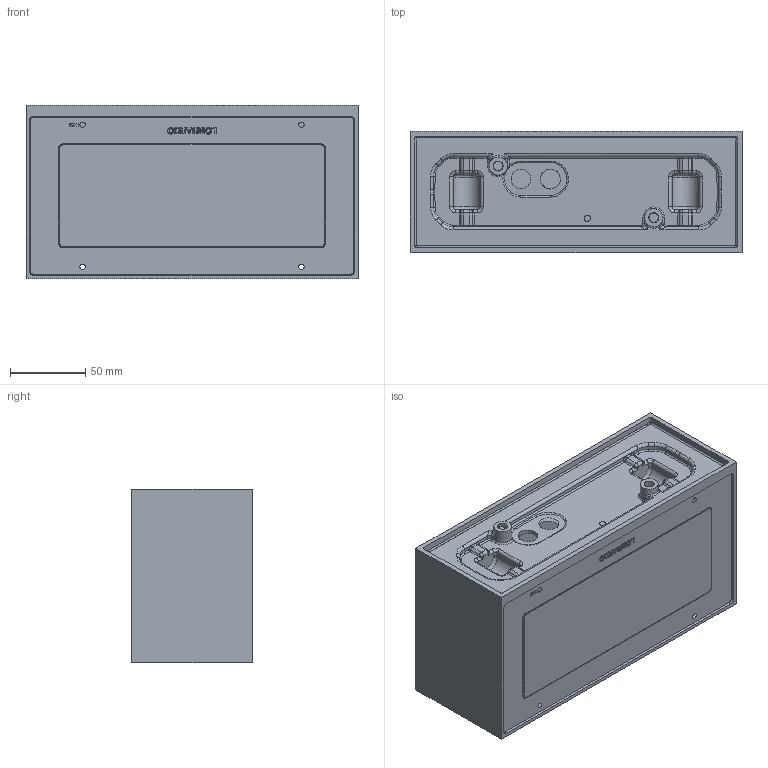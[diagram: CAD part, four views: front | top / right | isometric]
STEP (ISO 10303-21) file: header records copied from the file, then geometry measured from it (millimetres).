
FILE_DESCRIPTION((''),'2;1');
FILE_NAME('1X26W-BIEMISSIONE_SW0001','2025-06-30T09:52:19',('Piccioli'),(''),'CREO PARAMETRIC BY PTC INC, 2025010','CREO PARAMETRIC BY PTC INC, 2025010','');
FILE_SCHEMA(('CONFIG_CONTROL_DESIGN'));
Length unit declared in the file: millimetre
Products named in the file (1): 1X26W-BIEMISSIONE_SW0001
Bounding box: 220 x 80 x 115 mm (x, y, z)
Surface area: 213299.2 mm2 (no closed solid volume)
Topology: 0 solids, 55 shells, 482 faces, 2305 edges, 1851 vertices
Faces by surface type: plane 147, cylinder 124, cone 86, torus 59, bspline 58, sphere 8
Entity records: 34252 total; most frequent: CARTESIAN_POINT 17082, DIRECTION 3247, ORIENTED_EDGE 3179, EDGE_CURVE 2305, VERTEX_POINT 1851, VECTOR 1119, LINE 1119, AXIS2_PLACEMENT_3D 1064
